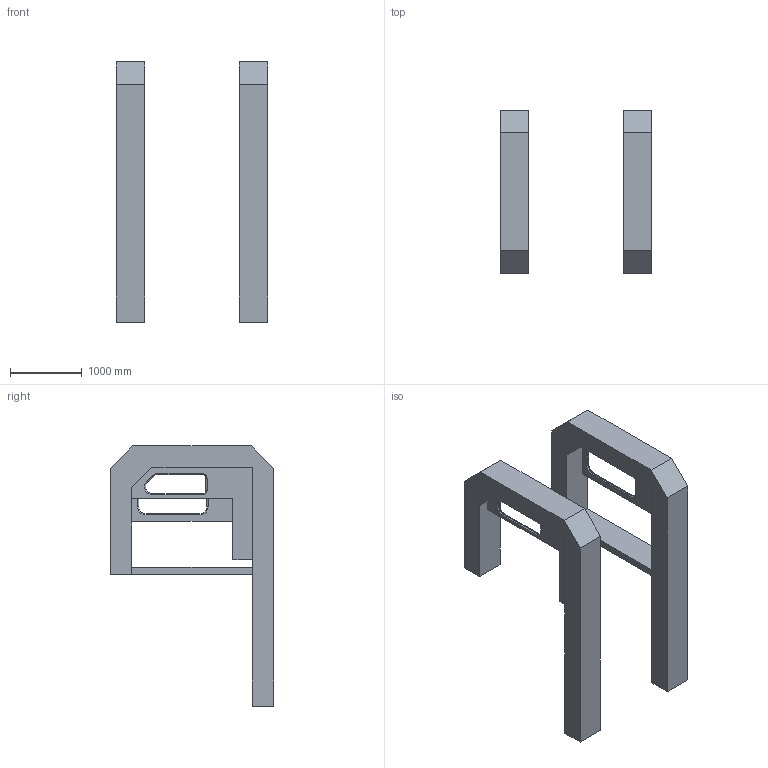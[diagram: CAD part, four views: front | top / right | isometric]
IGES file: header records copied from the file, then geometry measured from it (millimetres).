
Start section: START RECORD GO HERE.
Global section: file name: joues-bati.igs; native system: IBM CATIA IGES - CATIA Version 5 Release 10 ; preprocessor: CATIA Version 5 Release 10 ; date: 20030711.093937; units: millimetre
Bounding box: 2120 x 2281 x 3630 mm (x, y, z)
Surface area: 24266757.5 mm2 (no closed solid volume)
Topology: 0 solids, 0 shells, 94 faces, 492 edges, 492 vertices
Faces by surface type: plane 49, revolution 45
